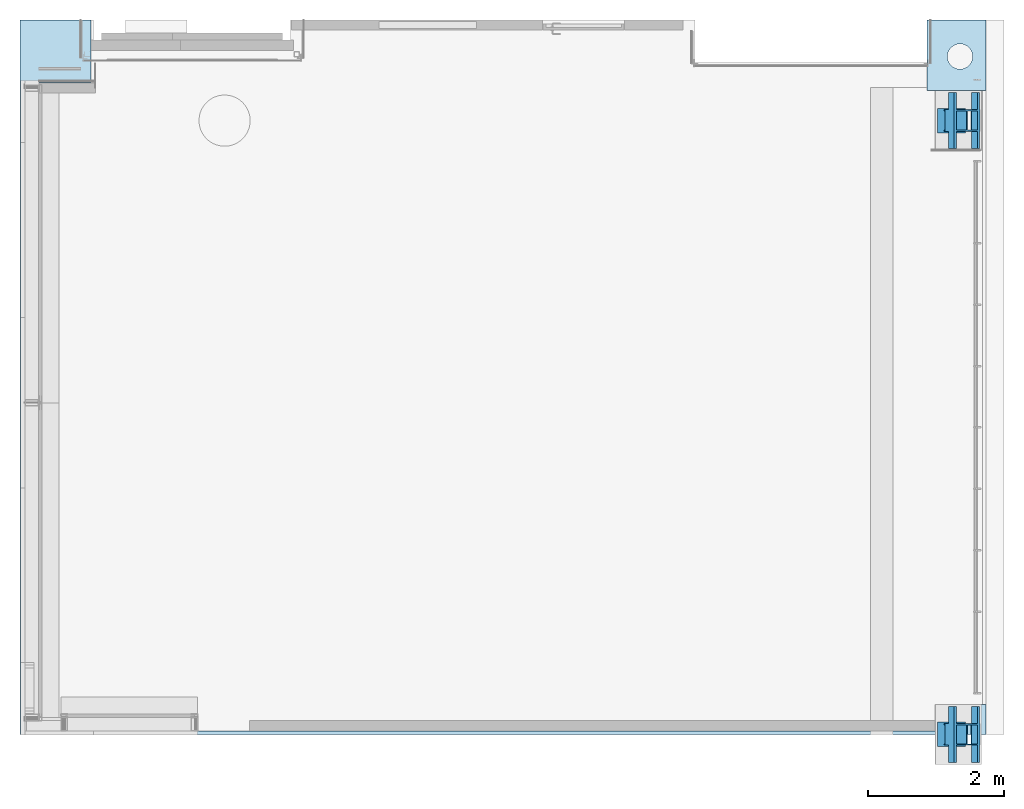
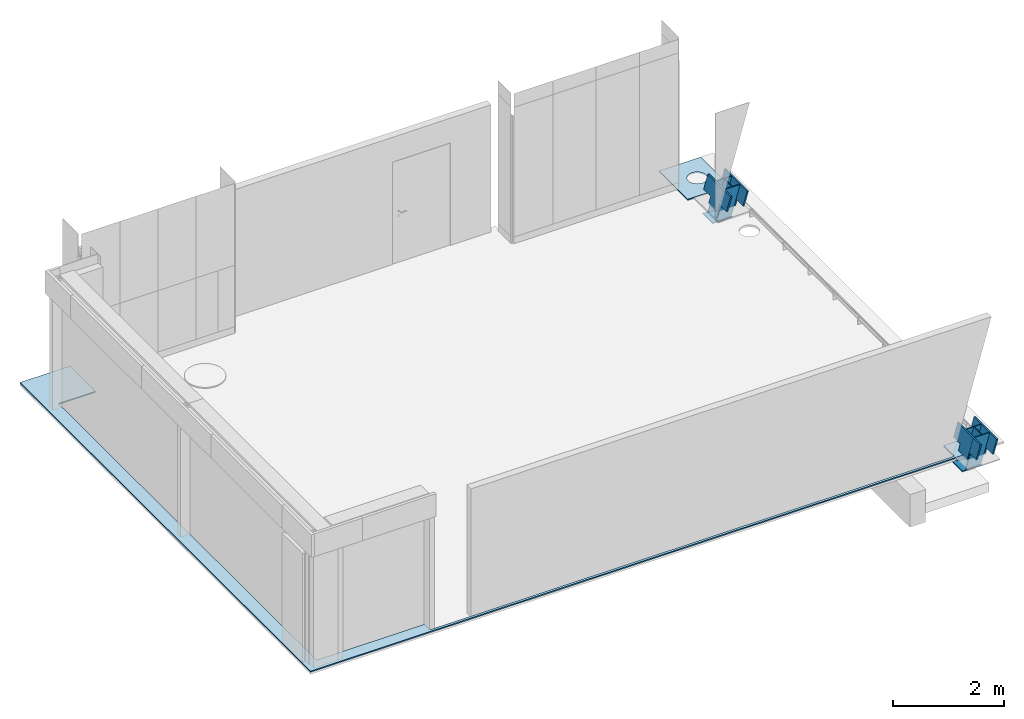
# One storey, part 7 of 14: 2 columns, 1 slab.
"""IFC2X3 building model written with IfcOpenShell, lengths in millimetres."""

import ifcopenshell
import ifcopenshell.guid

model = None  # the IFC model being written
_history = None  # IfcOwnerHistory: only IFC2X3 demands one
_inside = {}  # id of a spatial element -> (the spatial element, [elements in it])
_under = {}  # id of a project, library or spatial element -> (it, [spatial elements below it])
_declared = {}  # id of a project -> (the project, [libraries it declares])
_typed = {}  # id of a type object -> (the type object, [elements of that type])
_made_of = {}  # id of a material, layer set ... -> (it, [elements and type objects made of it])


def new_model(schema):
    """Start an empty IFC model of exactly this schema.

    Asked for "IFC4X3", IfcOpenShell would pick the latest addendum, in which some entities
    have other attributes; the version numbers below select the first issue.
    IFC2X3 requires an IfcOwnerHistory on every rooted entity: one is made here for all.
    """
    global model, _history
    if schema == "IFC4X3":
        model = ifcopenshell.file(schema_version=(4, 3, 0, 0))
    else:
        model = ifcopenshell.file(schema=schema)
    _inside.clear()
    _under.clear()
    _declared.clear()
    _typed.clear()
    _made_of.clear()
    _history = None
    if model.schema == "IFC2X3":
        org = make("IfcOrganization", Name="unknown")
        user = make(
            "IfcPersonAndOrganization",
            ThePerson=make("IfcPerson", FamilyName="unknown"),
            TheOrganization=org,
        )
        app = make(
            "IfcApplication",
            ApplicationDeveloper=org,
            Version="unknown",
            ApplicationFullName="unknown",
            ApplicationIdentifier="unknown",
        )
        _history = make(
            "IfcOwnerHistory",
            OwningUser=user,
            OwningApplication=app,
            ChangeAction="ADDED",
            CreationDate=0,
        )
    return model


def make(cls, **values):
    """One entity of the class cls with the attributes given. An attribute that is None is left unset."""
    return model.create_entity(
        cls, **{name: value for name, value in values.items() if value is not None}
    )


def entity(cls, *values):
    """Any entity or typed value of the class cls, its attributes in the order of the schema. None: left unset."""
    e = model.create_entity(cls)
    for i, value in enumerate(values):
        if value is not None:
            e[i] = value
    return e


def rooted(cls, **values):
    """An entity with a GlobalId (a new one), such as an element, a storey or a relation."""
    return make(cls, GlobalId=ifcopenshell.guid.new(), OwnerHistory=_history, **values)


def si_unit(unit_type, name, prefix=None):
    """IfcSIUnit, for example si_unit("LENGTHUNIT", "METRE", prefix="MILLI")."""
    return make("IfcSIUnit", UnitType=unit_type, Prefix=prefix, Name=name)


def converted_unit(unit_type, name, factor, base, dimensions=None, offset=None):
    """IfcConversionBasedUnit, such as the inch: factor (a typed value) times the base unit."""
    return make(
        "IfcConversionBasedUnit"
        if offset is None
        else "IfcConversionBasedUnitWithOffset",
        ConversionOffset=offset,
        Dimensions=None
        if dimensions is None
        else entity("IfcDimensionalExponents", *dimensions),
        UnitType=unit_type,
        Name=name,
        ConversionFactor=make(
            "IfcMeasureWithUnit", ValueComponent=factor, UnitComponent=base
        ),
    )


def derived_unit(unit_type, elements):
    """IfcDerivedUnit: a product of units, each with its exponent."""
    return make(
        "IfcDerivedUnit",
        Elements=[
            make("IfcDerivedUnitElement", Unit=unit, Exponent=power)
            for unit, power in elements
        ],
        UnitType=unit_type,
    )


def assignment(units):
    """IfcUnitAssignment: the units of a project."""
    return None if units is None else make("IfcUnitAssignment", Units=units)


def point(xyz):
    """IfcCartesianPoint."""
    return None if xyz is None else make("IfcCartesianPoint", Coordinates=xyz)


def direction(xyz):
    """IfcDirection."""
    return None if xyz is None else make("IfcDirection", DirectionRatios=xyz)


def frame(location, z_axis=None, x_axis=None):
    """IfcAxis2Placement3D, a coordinate frame: its origin and axes. An axis left out is left unset."""
    return make(
        "IfcAxis2Placement3D",
        Location=point(location),
        Axis=direction(z_axis),
        RefDirection=direction(x_axis),
    )


def origin():
    """The frame at (0, 0, 0) with its axes left unset."""
    return frame((0.0, 0.0, 0.0))


def origin_with_axes():
    """The frame at (0, 0, 0) with the z axis (0, 0, 1) and the x axis (1, 0, 0) written out."""
    return frame((0.0, 0.0, 0.0), z_axis=(0.0, 0.0, 1.0), x_axis=(1.0, 0.0, 0.0))


def place(relative_to, where):
    """IfcLocalPlacement: puts the frame where relative to a parent placement (None: the world)."""
    return make(
        "IfcLocalPlacement", PlacementRelTo=relative_to, RelativePlacement=where
    )


def context(
    kind, dimensions, precision=None, world=None, true_north=None, identifier=None
):
    """IfcGeometricRepresentationContext, for example the 3D "Model" context."""
    return make(
        "IfcGeometricRepresentationContext",
        ContextIdentifier=identifier,
        ContextType=kind,
        CoordinateSpaceDimension=dimensions,
        Precision=precision,
        WorldCoordinateSystem=world,
        TrueNorth=true_north,
    )


def subcontext(parent, identifier, kind, view, scale=None):
    """IfcGeometricRepresentationSubContext, for example "Body" below "Model"."""
    return make(
        "IfcGeometricRepresentationSubContext",
        ContextIdentifier=identifier,
        ContextType=kind,
        ParentContext=parent,
        TargetScale=scale,
        TargetView=view,
    )


def project(units=None, contexts=None):
    """IfcProject with its units and contexts."""
    return rooted(
        "IfcProject",
        Name="project",
        RepresentationContexts=contexts,
        UnitsInContext=assignment(units),
    )


def spatial(cls, under=None, at=None, **own):
    """A site, building, storey or space (cls), placed at a placement, below another one or the project."""
    s = rooted(cls, ObjectPlacement=at, **own)
    if under is not None:
        _under.setdefault(under.id(), (under, []))[1].append(s)
    return s


def faces_of(points, faces, orient=None, outer=None):
    """IfcFace entities. A face is a list of loops; a loop is a list of indices into points, from 0.

    orient and outer hold one flag for each loop. By default every Orientation is true, the
    first loop of a face is its IfcFaceOuterBound and the others are IfcFaceBound.
    """
    made = []
    for i, loops in enumerate(faces):
        bounds = []
        for j, loop in enumerate(loops):
            is_outer = j == 0 if outer is None else outer[i][j]
            bounds.append(
                make(
                    "IfcFaceOuterBound" if is_outer else "IfcFaceBound",
                    Bound=make("IfcPolyLoop", Polygon=[points[k] for k in loop]),
                    Orientation=True if orient is None else orient[i][j],
                )
            )
        made.append(make("IfcFace", Bounds=bounds))
    return made


def faceted_brep(points, faces, orient=None, outer=None, voids=None):
    """IfcFacetedBrep: a solid bounded by flat faces; with voids (closed shells), ...WithVoids."""
    shared = [point(p) for p in points]
    hull = make("IfcClosedShell", CfsFaces=faces_of(shared, faces, orient, outer))
    if voids is None:
        return make("IfcFacetedBrep", Outer=hull)
    return make(
        "IfcFacetedBrepWithVoids",
        Outer=hull,
        Voids=[
            make(cls, CfsFaces=faces_of(shared, fs, o, b)) for cls, fs, o, b in voids
        ],
    )


def shape(context_of_items, identifier, shape_type, items):
    """IfcShapeRepresentation: the items that make up one representation, for example the "Body"."""
    return make(
        "IfcShapeRepresentation",
        ContextOfItems=context_of_items,
        RepresentationIdentifier=identifier,
        RepresentationType=shape_type,
        Items=items,
    )


def source(mapping_origin, context_of_items, identifier, shape_type, items):
    """IfcRepresentationMap: a shape defined once, which mapped items show again and again."""
    return make(
        "IfcRepresentationMap",
        MappingOrigin=mapping_origin,
        MappedRepresentation=shape(context_of_items, identifier, shape_type, items),
    )


def transform(
    local_origin,
    x_axis=None,
    y_axis=None,
    z_axis=None,
    scale=None,
    scale2=None,
    scale3=None,
    uniform=True,
):
    """IfcCartesianTransformationOperator3D, or its non-uniform kind. x_axis, y_axis, z_axis: its Axis1, 2, 3."""
    if uniform:
        return make(
            "IfcCartesianTransformationOperator3D",
            Axis1=direction(x_axis),
            Axis2=direction(y_axis),
            LocalOrigin=point(local_origin),
            Scale=scale,
            Axis3=direction(z_axis),
        )
    return make(
        "IfcCartesianTransformationOperator3DnonUniform",
        Axis1=direction(x_axis),
        Axis2=direction(y_axis),
        LocalOrigin=point(local_origin),
        Scale=scale,
        Axis3=direction(z_axis),
        Scale2=scale2,
        Scale3=scale3,
    )


def mapped(mapping_source, mapping_target):
    """IfcMappedItem: shows the shape of a source again, moved by a transform."""
    return make(
        "IfcMappedItem", MappingSource=mapping_source, MappingTarget=mapping_target
    )


def material(Name=None, Category=None):
    """IfcMaterial."""
    return make("IfcMaterial", Name=Name, Category=Category)


def layer(
    of_material, thickness, ventilated=None, Name=None, Category=None, Priority=None
):
    """IfcMaterialLayer: one layer of a wall or slab, of a material (None: an air gap)."""
    return make(
        "IfcMaterialLayer",
        Material=of_material,
        LayerThickness=thickness,
        IsVentilated=ventilated,
        Name=Name,
        Category=Category,
        Priority=Priority,
    )


def layer_set(layers, Name=None):
    """IfcMaterialLayerSet."""
    return make("IfcMaterialLayerSet", MaterialLayers=layers, LayerSetName=Name)


def made_of(thing, what):
    """Note that an element or type object is made of a material, layer set ...; save() writes the relation."""
    if what is not None:
        _made_of.setdefault(what.id(), (what, []))[1].append(thing)
    return thing


def type_object(cls, material=None, **own):
    """A type object (cls), such as IfcWallType, which elements share."""
    return made_of(rooted(cls, **own), material)


def element(
    cls,
    number,
    at=None,
    inside=None,
    cuts=None,
    type_object=None,
    material=None,
    context=None,
    identifier="Body",
    shape_type=None,
    held_by="IfcProductDefinitionShape",
    body=None,
    shapes=None,
    **own,
):
    """One element of the class cls, such as IfcWall. Its Tag is "e" and its number.

    at: its placement. inside: the storey or other place that contains it. cuts: it is an
    opening in that element (IfcRelVoidsElement). A single representation is given by context,
    identifier, shape_type and body (its items); several are given by shapes. held_by: the class
    of the entity that holds the representations. save() writes the other relations.
    """
    e = rooted(cls, Tag="e%d" % number, ObjectPlacement=at, **own)
    if body is not None:
        shapes = [shape(context, identifier, shape_type, body)]
    if shapes is not None:
        e.Representation = make(held_by, Representations=shapes)
    if inside is not None:
        _inside.setdefault(inside.id(), (inside, []))[1].append(e)
    if cuts is not None:
        rooted(
            "IfcRelVoidsElement", RelatingBuildingElement=cuts, RelatedOpeningElement=e
        )
    if type_object is not None:
        _typed.setdefault(type_object.id(), (type_object, []))[1].append(e)
    return made_of(e, material)


def aggregate(whole, parts):
    """IfcRelAggregates: a whole, such as a stair, and the parts it consists of."""
    return rooted("IfcRelAggregates", RelatingObject=whole, RelatedObjects=parts)


def save(model, path):
    """Write the relations noted so far, then the file.

    IfcRelAggregates (storeys below a building ...), IfcRelContainedInSpatialStructure (elements
    in a storey), IfcRelDefinesByType, IfcRelAssociatesMaterial and IfcRelDeclares: one each for
    every whole, place, type object, material and project.
    """
    for whole, parts in _under.values():
        aggregate(whole, parts)
    for where, things in _inside.values():
        rooted(
            "IfcRelContainedInSpatialStructure",
            RelatedElements=things,
            RelatingStructure=where,
        )
    for kind, things in _typed.values():
        rooted("IfcRelDefinesByType", RelatedObjects=things, RelatingType=kind)
    for what, things in _made_of.values():
        rooted("IfcRelAssociatesMaterial", RelatedObjects=things, RelatingMaterial=what)
    for by, libraries in _declared.values():
        rooted("IfcRelDeclares", RelatingContext=by, RelatedDefinitions=libraries)
    model.write(path)


model = new_model("IFC2X3")

# Units and contexts
model_context = context("Model", 3, precision=0.01, world=frame((0.0, 4.29681676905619e-09, 0.0)), true_north=direction((4.01073788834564e-13, 1.0)))
plan_context = context("Plan", 3, precision=0.01, world=frame((0.0, 4.29681676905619e-09, 0.0)), true_north=direction((4.01073788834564e-13, 1.0)))
body_context = subcontext(model_context, "Body", "Model", "MODEL_VIEW")
ifc_project = project(units=[converted_unit("PLANEANGLEUNIT", "DEGREE", entity("IfcPositiveLengthMeasure", 0.0174532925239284), si_unit("PLANEANGLEUNIT", "RADIAN"), dimensions=[0, 0, 0, 0, 0, 0, 0]), si_unit("AREAUNIT", "SQUARE_METRE"), si_unit("LENGTHUNIT", "METRE", prefix="MILLI"), si_unit("MASSUNIT", "GRAM", prefix="KILO"), si_unit("POWERUNIT", "WATT"), si_unit("PRESSUREUNIT", "PASCAL"), si_unit("FORCEUNIT", "NEWTON", prefix="KILO"), si_unit("ELECTRICVOLTAGEUNIT", "VOLT"), si_unit("ELECTRICCURRENTUNIT", "AMPERE"), si_unit("THERMODYNAMICTEMPERATUREUNIT", "DEGREE_CELSIUS"), si_unit("TIMEUNIT", "SECOND"), si_unit("VOLUMEUNIT", "CUBIC_METRE"), derived_unit("LINEARVELOCITYUNIT", [(si_unit("LENGTHUNIT", "METRE"), 1), (si_unit("TIMEUNIT", "SECOND"), -1)]), derived_unit("VOLUMETRICFLOWRATEUNIT", [(si_unit("VOLUMEUNIT", "CUBIC_METRE"), 1), (si_unit("TIMEUNIT", "SECOND"), -1)]), derived_unit("THERMALTRANSMITTANCEUNIT", [(si_unit("POWERUNIT", "WATT"), 1), (si_unit("THERMODYNAMICTEMPERATUREUNIT", "KELVIN"), -1), (si_unit("AREAUNIT", "SQUARE_METRE"), -1)]), derived_unit("SOUNDPRESSUREUNIT", [(si_unit("PRESSUREUNIT", "PASCAL"), 1)])], contexts=[model_context, plan_context])

# Site, building, storey
site_placement = place(None, origin_with_axes())
site = spatial("IfcSite", under=ifc_project, at=site_placement, Name="ENGM", CompositionType="ELEMENT")
building_placement = place(site_placement, origin_with_axes())
building = spatial("IfcBuilding", under=site, at=building_placement, Name="TI", CompositionType="ELEMENT")
storey_placement = place(building_placement, frame((0.0, 0.0, 210900.0), z_axis=(0.0, 0.0, 1.0), x_axis=(1.0, 0.0, 0.0)))
storey = spatial("IfcBuildingStorey", under=building, at=storey_placement, Name="Nivå F", CompositionType="ELEMENT", Elevation=210900.0)

# Columns
ifc_material_1 = material(Name="<Unnamed>")
column_type_1 = type_object("IfcColumnType", Name="B220 - Søylefot - Primærdragere - PirNord1:B220 - Søylefot - Primærdragere - PirNord - h=470", PredefinedType="COLUMN", material=ifc_material_1)
shared_shape_1 = source(origin(), body_context, "Body", "Brep", [
    faceted_brep([(611730.458268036, 697840.163867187, 211331.5), (611548.85360945, 697840.163867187, 210700.0), (611861.012271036, 697840.163867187, 210700.0), (612042.616929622, 697840.163867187, 211331.5), (612042.616929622, 698139.663867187, 211331.5), (611861.012271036, 698139.663867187, 210700.0), (611861.012271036, 698160.163867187, 210700.0), (612042.616929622, 698160.163867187, 211331.5), (611548.85360945, 698160.163867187, 210700.0), (611730.458268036, 698160.163867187, 211331.5), (611730.458268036, 697860.663867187, 211331.5), (611548.85360945, 697860.663867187, 210700.0), (611892.520639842, 698139.663867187, 211331.5), (611710.915981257, 698139.663867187, 210700.0), (611880.554557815, 698139.663867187, 211331.5), (611698.949899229, 698139.663867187, 210700.0), (611698.949899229, 697860.663867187, 210700.0), (611880.554557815, 697860.663867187, 211331.5), (611548.85360945, 698139.663867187, 210700.0), (611730.458268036, 698139.663867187, 211331.5), (611892.520639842, 697860.663867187, 211331.5), (611710.915981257, 697860.663867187, 210700.0), (612042.616929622, 697860.663867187, 211331.5), (611861.012271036, 697860.663867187, 210700.0)], [[[0, 1, 2, 3]], [[4, 5, 6, 7]], [[7, 6, 8, 9]], [[10, 11, 1, 0]], [[12, 13, 5, 4]], [[14, 15, 16, 17]], [[9, 8, 18, 19]], [[19, 18, 15, 14]], [[20, 21, 13, 12]], [[17, 10, 0, 3, 22, 20, 12, 4, 7, 9, 19, 14]], [[17, 16, 11, 10]], [[3, 2, 23, 22]], [[22, 23, 21, 20]], [[15, 18, 8, 6, 5, 13, 21, 23, 2, 1, 11, 16]]]),
    faceted_brep([(611612.969404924, 697590.163867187, 211031.5), (611644.185271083, 697590.163867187, 211031.5), (611730.458268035, 697590.163867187, 211331.5), (611699.242401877, 697590.163867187, 211331.5), (611699.242401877, 698410.163867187, 211331.5), (611612.969404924, 698410.163867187, 211031.5), (611730.458268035, 698410.163867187, 211331.5), (611644.185271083, 698410.163867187, 211031.5)], [[[0, 1, 2, 3]], [[3, 4, 5, 0]], [[2, 6, 4, 3]], [[1, 7, 6, 2]], [[0, 5, 7, 1]], [[5, 4, 6, 7]]]),
    faceted_brep([(611956.343932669, 697590.163867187, 211031.5), (611956.343932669, 698410.163867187, 211031.5), (611987.559798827, 698410.163867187, 211031.5), (611987.559798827, 697590.163867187, 211031.5), (612073.83279578, 698410.163867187, 211331.5), (612042.616929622, 698410.163867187, 211331.5), (612073.83279578, 697590.163867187, 211331.5), (612042.616929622, 697590.163867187, 211331.5)], [[[0, 1, 2, 3]], [[4, 2, 1, 5]], [[3, 2, 4, 6]], [[7, 5, 1, 0]], [[6, 4, 5, 7]], [[6, 7, 0, 3]]]),
    faceted_brep([(611699.242401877, 697840.163867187, 211331.5), (611569.976694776, 697840.163867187, 210882.0), (611569.976694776, 698160.163867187, 210882.0), (611699.242401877, 698160.163867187, 211331.5), (611566.85510816, 698160.163867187, 210882.0), (611566.85510816, 697840.163867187, 210882.0), (611696.120815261, 698160.163867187, 211331.5), (611696.120815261, 697840.163867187, 211331.5)], [[[0, 1, 2, 3]], [[4, 2, 1, 5]], [[6, 4, 5, 7]], [[3, 2, 4, 6]], [[7, 5, 1, 0]], [[7, 0, 3, 6]]]),
    faceted_brep([(612076.954382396, 698160.163867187, 211331.5), (612073.83279578, 698160.163867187, 211331.5), (612073.83279578, 697840.163867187, 211331.5), (612076.954382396, 697840.163867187, 211331.5), (611947.688675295, 697840.163867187, 210882.0), (611944.567088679, 697840.163867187, 210882.0), (611944.567088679, 698160.163867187, 210882.0), (611947.688675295, 698160.163867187, 210882.0)], [[[0, 1, 2, 3]], [[4, 5, 6, 7]], [[2, 5, 4, 3]], [[3, 4, 7, 0]], [[0, 7, 6, 1]], [[1, 6, 5, 2]]]),
    faceted_brep([(611750.945205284, 698130.163867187, 210680.0), (611867.945205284, 698130.163867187, 210680.0), (611867.945205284, 698130.163867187, 210700.0), (611750.945205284, 698130.163867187, 210700.0), (611457.945205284, 697820.163867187, 210700.0), (611457.945205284, 697820.163867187, 210680.0), (611867.945205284, 697820.163867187, 210680.0), (611867.945205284, 697820.163867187, 210700.0), (611457.945205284, 698180.163867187, 210700.0), (611867.945205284, 698180.163867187, 210700.0), (611867.945205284, 698180.163867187, 210680.0), (611457.945205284, 698180.163867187, 210680.0), (611750.945205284, 697870.163867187, 210700.0), (611750.945205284, 697870.163867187, 210680.0), (611867.945205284, 697870.163867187, 210700.0), (611867.945205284, 697870.163867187, 210680.0)], [[[0, 1, 2, 3]], [[4, 5, 6, 7]], [[8, 9, 10, 11]], [[3, 12, 13, 0]], [[12, 14, 15, 13]], [[4, 8, 11, 5]], [[7, 14, 12, 3, 2, 9, 8, 4]], [[6, 15, 14, 7]], [[5, 11, 10, 1, 0, 13, 15, 6]], [[9, 2, 1, 10]]]),
])
column_1_placement = place(storey_placement, frame((0.0, 0.0, -210900.0), z_axis=(0.0, 0.0, 1.0), x_axis=(1.0, 0.0, 0.0)))
element("IfcColumn", 1, at=column_1_placement, inside=storey, type_object=column_type_1, material=ifc_material_1, Name="B220 - Søylefot - Primærdragere - PirNord1:B220 - Søylefot - Primærdragere - PirNord - h=470", ObjectType="B220 - Søylefot - Primærdragere - PirNord1:B220 - Søylefot - Primærdragere - PirNord - h=470", context=body_context, shape_type="MappedRepresentation", body=[
    mapped(shared_shape_1, transform((0.0, 0.0, 0.0), scale=1.0)),
])
column_type_2 = type_object("IfcColumnType", Name="B220 - Søylefot - Primærdragere - PirNord1:B220 - Søylefot - Primærdragere - PirNord - h=470", PredefinedType="COLUMN", material=ifc_material_1)
shared_shape_2 = source(origin(), body_context, "Body", "Brep", [
    faceted_brep([(611730.458268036, 688840.163867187, 211331.5), (611548.85360945, 688840.163867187, 210700.0), (611861.012271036, 688840.163867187, 210700.0), (612042.616929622, 688840.163867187, 211331.5), (612042.616929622, 689139.663867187, 211331.5), (611861.012271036, 689139.663867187, 210700.0), (611861.012271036, 689160.163867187, 210700.0), (612042.616929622, 689160.163867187, 211331.5), (611548.85360945, 689160.163867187, 210700.0), (611730.458268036, 689160.163867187, 211331.5), (611730.458268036, 688860.663867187, 211331.5), (611548.85360945, 688860.663867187, 210700.0), (611892.520639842, 689139.663867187, 211331.5), (611710.915981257, 689139.663867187, 210700.0), (611880.554557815, 689139.663867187, 211331.5), (611698.949899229, 689139.663867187, 210700.0), (611698.949899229, 688860.663867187, 210700.0), (611880.554557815, 688860.663867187, 211331.5), (611548.85360945, 689139.663867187, 210700.0), (611730.458268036, 689139.663867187, 211331.5), (611892.520639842, 688860.663867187, 211331.5), (611710.915981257, 688860.663867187, 210700.0), (612042.616929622, 688860.663867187, 211331.5), (611861.012271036, 688860.663867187, 210700.0)], [[[0, 1, 2, 3]], [[4, 5, 6, 7]], [[7, 6, 8, 9]], [[10, 11, 1, 0]], [[12, 13, 5, 4]], [[14, 15, 16, 17]], [[9, 8, 18, 19]], [[19, 18, 15, 14]], [[20, 21, 13, 12]], [[17, 10, 0, 3, 22, 20, 12, 4, 7, 9, 19, 14]], [[17, 16, 11, 10]], [[3, 2, 23, 22]], [[22, 23, 21, 20]], [[15, 18, 8, 6, 5, 13, 21, 23, 2, 1, 11, 16]]]),
    faceted_brep([(611612.969404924, 688590.163867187, 211031.5), (611644.185271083, 688590.163867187, 211031.5), (611730.458268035, 688590.163867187, 211331.5), (611699.242401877, 688590.163867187, 211331.5), (611699.242401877, 689410.163867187, 211331.5), (611612.969404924, 689410.163867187, 211031.5), (611730.458268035, 689410.163867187, 211331.5), (611644.185271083, 689410.163867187, 211031.5)], [[[0, 1, 2, 3]], [[3, 4, 5, 0]], [[2, 6, 4, 3]], [[1, 7, 6, 2]], [[0, 5, 7, 1]], [[5, 4, 6, 7]]]),
    faceted_brep([(611956.343932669, 688590.163867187, 211031.5), (611956.343932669, 689410.163867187, 211031.5), (611987.559798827, 689410.163867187, 211031.5), (611987.559798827, 688590.163867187, 211031.5), (612073.83279578, 689410.163867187, 211331.5), (612042.616929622, 689410.163867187, 211331.5), (612073.83279578, 688590.163867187, 211331.5), (612042.616929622, 688590.163867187, 211331.5)], [[[0, 1, 2, 3]], [[4, 2, 1, 5]], [[3, 2, 4, 6]], [[7, 5, 1, 0]], [[6, 4, 5, 7]], [[6, 7, 0, 3]]]),
    faceted_brep([(611699.242401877, 688840.163867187, 211331.5), (611569.976694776, 688840.163867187, 210882.0), (611569.976694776, 689160.163867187, 210882.0), (611699.242401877, 689160.163867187, 211331.5), (611566.85510816, 689160.163867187, 210882.0), (611566.85510816, 688840.163867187, 210882.0), (611696.120815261, 689160.163867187, 211331.5), (611696.120815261, 688840.163867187, 211331.5)], [[[0, 1, 2, 3]], [[4, 2, 1, 5]], [[6, 4, 5, 7]], [[3, 2, 4, 6]], [[7, 5, 1, 0]], [[7, 0, 3, 6]]]),
    faceted_brep([(612076.954382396, 689160.163867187, 211331.5), (612073.83279578, 689160.163867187, 211331.5), (612073.83279578, 688840.163867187, 211331.5), (612076.954382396, 688840.163867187, 211331.5), (611947.688675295, 688840.163867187, 210882.0), (611944.567088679, 688840.163867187, 210882.0), (611944.567088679, 689160.163867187, 210882.0), (611947.688675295, 689160.163867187, 210882.0)], [[[0, 1, 2, 3]], [[4, 5, 6, 7]], [[2, 5, 4, 3]], [[3, 4, 7, 0]], [[0, 7, 6, 1]], [[1, 6, 5, 2]]]),
    faceted_brep([(611750.945205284, 689130.163867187, 210680.0), (611867.945205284, 689130.163867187, 210680.0), (611867.945205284, 689130.163867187, 210700.0), (611750.945205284, 689130.163867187, 210700.0), (611457.945205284, 688820.163867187, 210700.0), (611457.945205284, 688820.163867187, 210680.0), (611867.945205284, 688820.163867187, 210680.0), (611867.945205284, 688820.163867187, 210700.0), (611457.945205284, 689180.163867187, 210700.0), (611867.945205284, 689180.163867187, 210700.0), (611867.945205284, 689180.163867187, 210680.0), (611457.945205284, 689180.163867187, 210680.0), (611750.945205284, 688870.163867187, 210700.0), (611750.945205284, 688870.163867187, 210680.0), (611867.945205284, 688870.163867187, 210700.0), (611867.945205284, 688870.163867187, 210680.0)], [[[0, 1, 2, 3]], [[4, 5, 6, 7]], [[8, 9, 10, 11]], [[3, 12, 13, 0]], [[12, 14, 15, 13]], [[4, 8, 11, 5]], [[7, 14, 12, 3, 2, 9, 8, 4]], [[6, 15, 14, 7]], [[5, 11, 10, 1, 0, 13, 15, 6]], [[9, 2, 1, 10]]]),
])
column_2_placement = place(storey_placement, frame((0.0, 0.0, -210900.0), z_axis=(0.0, 0.0, 1.0), x_axis=(1.0, 0.0, 0.0)))
element("IfcColumn", 2, at=column_2_placement, inside=storey, type_object=column_type_2, material=ifc_material_1, Name="B220 - Søylefot - Primærdragere - PirNord1:B220 - Søylefot - Primærdragere - PirNord - h=470", ObjectType="B220 - Søylefot - Primærdragere - PirNord1:B220 - Søylefot - Primærdragere - PirNord - h=470", context=body_context, shape_type="MappedRepresentation", body=[
    mapped(shared_shape_2, transform((0.0, 0.0, 0.0), scale=1.0)),
])

# Slab
ifc_material_2 = material(Name="T2_Tregulv Gulvplaner")
ifc_layer = layer(ifc_material_2, 25.0)
ifc_layer_set = layer_set([ifc_layer], Name="Floor:A254 - Tregulv inkl. lim - 25 mm")
slab_type = type_object("IfcSlabType", Name="Floor:A254 - Tregulv inkl. lim - 25 mm", PredefinedType="FLOOR", material=ifc_layer_set)
slab_placement = place(storey_placement, frame((558471.682269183, 560501.010568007, -25.0), z_axis=(0.0, 0.0, 1.0), x_axis=(1.0, 0.0, 0.0)))
element("IfcSlab", 3, at=slab_placement, inside=storey, type_object=slab_type, Name="Floor:A254 - Tregulv inkl. lim - 25 mm", ObjectType="Floor:A254 - Tregulv inkl. lim - 25 mm", PredefinedType="FLOOR", context=body_context, shape_type="Brep", body=[
    faceted_brep([(53694.2741135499, 138974.489431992, 25.0), (53694.2741135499, 138974.489431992, -1.16386900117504e-11), (53694.2741135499, 137939.15329918, -1.16386900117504e-11), (53694.2741135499, 137939.15329918, 25.0), (52828.0153923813, 137939.15329918, -1.16386900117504e-11), (52828.0153923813, 137939.15329918, 25.0), (52828.0153923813, 138974.489431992, -1.16386900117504e-11), (52828.0153923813, 138974.489431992, 25.0), (40570.3217347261, 138974.489431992, 25.0), (40570.3217347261, 138974.489431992, -1.16386900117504e-11), (40570.3217347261, 138051.489431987, -1.16386900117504e-11), (40570.3217347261, 138051.489431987, 25.0), (39798.3177307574, 138051.489431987, -1.16386900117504e-11), (39798.3177307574, 138051.489431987, 25.0), (39798.3177307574, 128749.009782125, -1.16386900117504e-11), (39798.3177307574, 128749.009782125, 25.0), (42043.3177308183, 128749.009782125, -1.16386900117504e-11), (42043.3177308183, 128749.009782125, 25.0), (42043.3177308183, 128548.989431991, -1.16386900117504e-11), (42043.3177308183, 128548.989431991, 25.0), (52953.5161451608, 128548.989431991, -1.16386900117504e-11), (52953.5161451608, 128548.989431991, 25.0), (52953.5161451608, 128938.989431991, -1.16386900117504e-11), (52953.5161451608, 128938.989431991, 25.0), (53694.2741135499, 128938.989431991, -1.16386900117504e-11), (53694.2741135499, 128938.989431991, 25.0), (53694.2741135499, 128498.989431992, -1.16386900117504e-11), (53694.2741135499, 128498.989431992, 25.0), (53495.5071651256, 138471.278212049, 24.9999999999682), (53487.1608656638, 138502.427025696, 24.9999999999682), (53473.5324305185, 138531.65329918, 24.9999999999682), (53455.0359527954, 138558.069006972, 24.9999999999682), (53432.2334386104, 138580.871521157, 24.9999999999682), (53405.8177308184, 138599.36799888, 24.9999999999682), (53376.5914573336, 138612.996434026, 24.9999999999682), (53345.4426436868, 138621.342733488, 24.9999999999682), (53313.3177308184, 138624.15329918, 24.9999999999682), (53281.19281795, 138621.342733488, 24.9999999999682), (53250.0440043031, 138612.996434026, 24.9999999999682), (53220.8177308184, 138599.36799888, 24.9999999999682), (53194.4020230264, 138580.871521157, 24.9999999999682), (53171.5995088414, 138558.069006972, 24.9999999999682), (53153.1030311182, 138531.65329918, 24.9999999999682), (53139.474595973, 138502.427025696, 24.9999999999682), (53131.1282965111, 138471.278212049, 24.9999999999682), (53128.3177308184, 138439.15329918, 24.9999999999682), (53131.1282965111, 138407.028386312, 24.9999999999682), (53139.474595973, 138375.879572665, 24.9999999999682), (53153.1030311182, 138346.65329918, 24.9999999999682), (53171.5995088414, 138320.237591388, 24.9999999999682), (53194.4020230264, 138297.435077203, 24.9999999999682), (53220.8177308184, 138278.93859948, 24.9999999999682), (53250.0440043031, 138265.310164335, 24.9999999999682), (53281.19281795, 138256.963864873, 24.9999999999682), (53313.3177308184, 138254.15329918, 24.9999999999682), (53345.4426436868, 138256.963864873, 24.9999999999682), (53376.5914573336, 138265.310164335, 24.9999999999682), (53405.8177308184, 138278.93859948, 24.9999999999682), (53432.2334386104, 138297.435077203, 24.9999999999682), (53455.0359527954, 138320.237591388, 24.9999999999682), (53473.5324305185, 138346.65329918, 24.9999999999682), (53487.1608656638, 138375.879572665, 24.9999999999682), (53495.5071651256, 138407.028386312, 24.9999999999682), (53498.3177308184, 138439.15329918, 24.9999999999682), (39528.3177307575, 128498.989431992, 24.9999999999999), (39528.3177307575, 138974.489431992, 24.9999999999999), (39528.3177307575, 138974.489431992, -1.17097442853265e-11), (39528.3177307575, 128498.989431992, -1.17097442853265e-11), (53498.3177308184, 138439.15329918, -1.16351372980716e-11), (53495.5071651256, 138407.028386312, -1.16351372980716e-11), (53487.1608656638, 138375.879572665, -1.16351372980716e-11), (53473.5324305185, 138346.65329918, -1.16351372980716e-11), (53455.0359527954, 138320.237591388, -1.16351372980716e-11), (53432.2334386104, 138297.435077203, -1.16351372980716e-11), (53405.8177308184, 138278.93859948, -1.16351372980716e-11), (53376.5914573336, 138265.310164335, -1.16351372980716e-11), (53345.4426436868, 138256.963864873, -1.16351372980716e-11), (53313.3177308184, 138254.15329918, -1.16351372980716e-11), (53281.19281795, 138256.963864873, -1.16351372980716e-11), (53250.0440043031, 138265.310164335, -1.16351372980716e-11), (53220.8177308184, 138278.93859948, -1.16351372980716e-11), (53194.4020230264, 138297.435077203, -1.16351372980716e-11), (53171.5995088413, 138320.237591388, -1.16351372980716e-11), (53153.1030311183, 138346.65329918, -1.16351372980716e-11), (53139.474595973, 138375.879572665, -1.16351372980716e-11), (53131.1282965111, 138407.028386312, -1.16351372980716e-11), (53128.3177308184, 138439.15329918, -1.16351372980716e-11), (53131.1282965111, 138471.278212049, -1.16351372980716e-11), (53139.474595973, 138502.427025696, -1.16351372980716e-11), (53153.1030311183, 138531.65329918, -1.16351372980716e-11), (53171.5995088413, 138558.069006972, -1.16351372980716e-11), (53194.4020230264, 138580.871521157, -1.16351372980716e-11), (53220.8177308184, 138599.36799888, -1.16351372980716e-11), (53250.0440043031, 138612.996434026, -1.16351372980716e-11), (53281.19281795, 138621.342733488, -1.16351372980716e-11), (53313.3177308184, 138624.15329918, -1.16351372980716e-11), (53345.4426436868, 138621.342733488, -1.16351372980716e-11), (53376.5914573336, 138612.996434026, -1.16351372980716e-11), (53405.8177308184, 138599.36799888, -1.16351372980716e-11), (53432.2334386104, 138580.871521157, -1.16351372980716e-11), (53455.0359527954, 138558.069006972, -1.16351372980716e-11), (53473.5324305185, 138531.65329918, -1.16351372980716e-11), (53487.1608656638, 138502.427025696, -1.16351372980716e-11), (53495.5071651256, 138471.278212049, -1.16351372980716e-11)], [[[0, 1, 2, 3]], [[3, 2, 4, 5]], [[6, 7, 5, 4]], [[8, 9, 10, 11]], [[11, 10, 12, 13]], [[13, 12, 14, 15]], [[15, 14, 16, 17]], [[17, 16, 18, 19]], [[19, 18, 20, 21]], [[21, 20, 22, 23]], [[23, 22, 24, 25]], [[26, 27, 25, 24]], [[7, 0, 3, 5], [28, 29, 30, 31, 32, 33, 34, 35, 36, 37, 38, 39, 40, 41, 42, 43, 44, 45, 46, 47, 48, 49, 50, 51, 52, 53, 54, 55, 56, 57, 58, 59, 60, 61, 62, 63]], [[27, 64, 65, 8, 11, 13, 15, 17, 19, 21, 23, 25]], [[9, 66, 67, 26, 24, 22, 20, 18, 16, 14, 12, 10]], [[1, 6, 4, 2], [68, 69, 70, 71, 72, 73, 74, 75, 76, 77, 78, 79, 80, 81, 82, 83, 84, 85, 86, 87, 88, 89, 90, 91, 92, 93, 94, 95, 96, 97, 98, 99, 100, 101, 102, 103]], [[63, 62, 69, 68]], [[28, 63, 68, 103]], [[29, 28, 103, 102]], [[30, 29, 102, 101]], [[31, 30, 101, 100]], [[32, 31, 100, 99]], [[33, 32, 99, 98]], [[34, 33, 98, 97]], [[35, 34, 97, 96]], [[36, 35, 96, 95]], [[37, 36, 95, 94]], [[38, 37, 94, 93]], [[39, 38, 93, 92]], [[40, 39, 92, 91]], [[41, 40, 91, 90]], [[42, 41, 90, 89]], [[43, 42, 89, 88]], [[44, 43, 88, 87]], [[45, 44, 87, 86]], [[46, 45, 86, 85]], [[47, 46, 85, 84]], [[48, 47, 84, 83]], [[49, 48, 83, 82]], [[50, 49, 82, 81]], [[51, 50, 81, 80]], [[52, 51, 80, 79]], [[53, 52, 79, 78]], [[54, 53, 78, 77]], [[55, 54, 77, 76]], [[56, 55, 76, 75]], [[57, 56, 75, 74]], [[58, 57, 74, 73]], [[59, 58, 73, 72]], [[60, 59, 72, 71]], [[61, 60, 71, 70]], [[62, 61, 70, 69]], [[66, 9, 8, 65]], [[7, 6, 1, 0]], [[65, 64, 67, 66]], [[64, 27, 26, 67]]], orient=[[False], [False], [False], [False], [False], [False], [False], [False], [False], [False], [False], [False], [False, False], [False], [False], [False, False], [False], [False], [False], [False], [False], [False], [False], [False], [False], [False], [False], [False], [False], [False], [False], [False], [False], [False], [False], [False], [False], [False], [False], [False], [False], [False], [False], [False], [False], [False], [False], [False], [False], [False], [False], [False], [False], [False], [False], [False]]),
])

save(model, "model.ifc")
